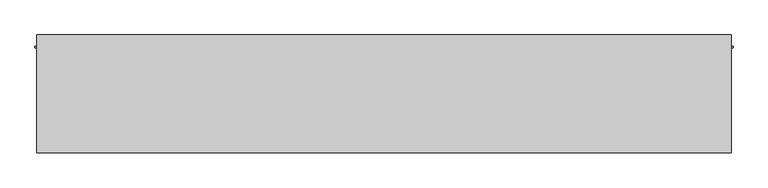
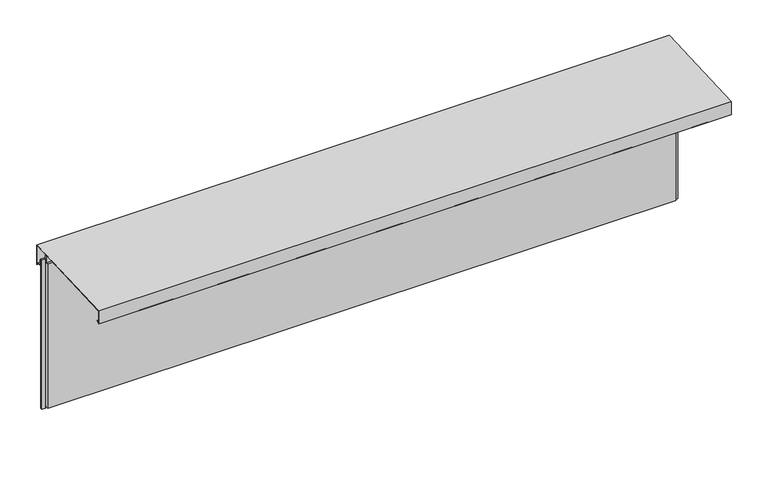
"""IFC4 building model written with IfcOpenShell, lengths in millimetres: plate geometry, Trimo_Qbiss Screen_Normal Panel-HORIZONTAL : HR - B."""

from ifc_helpers import new_model, si_unit, frame, origin, place, context, project, spatial, polyline, outline, extrude, source, transform, mapped, element, save


def plate_2f1254bd(model_context):
    return source(origin(), model_context, "Body", "SweptSolid", [
        extrude(outline(polyline([(101.0, 868.0), (77.0, 868.0), (77.0, 868.8), (101.8, 868.8), (101.8, 831.8), (125.3313708, 831.8), (133.2, 823.9313708), (133.2, 822.8), (125.0, 831.0), (101.0, 831.0), (101.0, 868.0)])), frame((-1781.25, 0.0, 0.0), z_axis=(1.0, 0.0, 0.0), x_axis=(0.0, 1.0, 0.0)), (0.0, 0.0, 1.0), 3562.5),
        extrude(outline(polyline([(134.2, 818.9715729), (134.2, 934.1569759), (-469.2, 905.4165497), (-469.2, 833.1070922), (-457.6367532, 844.670339), (-457.0710678, 844.1046536), (-470.0, 831.1757214), (-470.0, 906.1757214), (135.0, 935.0), (135.0, 817.040202), (123.020101, 829.020101), (123.5857864, 829.5857864), (134.2, 818.9715729)])), frame((-1781.25, 0.0, 0.0), z_axis=(1.0, 0.0, 0.0), x_axis=(0.0, 1.0, 0.0)), (0.0, 0.0, 1.0), 3562.5),
        extrude(outline(polyline([(-1771.75, 76.5978162), (-1771.75, 67.8978162), (-1790.75, 67.8978162), (-1790.75, 76.5978162), (-1771.75, 76.5978162)])), frame((0.0, 0.0, -1.0), z_axis=(0.0, 0.0, 1.0), x_axis=(1.0, 0.0, 0.0)), (0.0, 0.0, 1.0), 890.0),
        extrude(outline(polyline([(1771.75, 67.8978162), (1771.75, 76.5978162), (1790.75, 76.5978162), (1790.75, 67.8978162), (1771.75, 67.8978162)])), frame((0.0, 0.0, -1.0), z_axis=(0.0, 0.0, 1.0), x_axis=(1.0, 0.0, 0.0)), (0.0, 0.0, 1.0), 890.0),
        extrude(outline(polyline([(1768.75, 76.0), (1768.75, 71.0), (-1768.75, 71.0), (-1768.75, 76.0), (1768.75, 76.0)])), frame((0.0, 0.0, 868.0), z_axis=(0.0, 0.0, 1.0), x_axis=(1.0, 0.0, 0.0)), (0.0, 0.0, 1.0), 21.0),
        extrude(outline(polyline([(71.0, 867.0), (100.0, 867.0), (100.0, 0.0), (72.0, 0.0), (72.0, 15.5), (62.0, 15.5), (62.0, 7.0), (50.0, 7.0), (50.0, 867.0), (63.0, 867.0), (63.0, 904.5), (71.0, 904.5), (71.0, 867.0)])), frame((-1768.75, 0.0, 0.0), z_axis=(1.0, 0.0, 0.0), x_axis=(0.0, 1.0, 0.0)), (0.0, 0.0, 1.0), 3537.5),
    ])


if __name__ == "__main__":
    model = new_model("IFC4")
    model_context = context("Model", 3, world=origin())
    ifc_project = project(units=[si_unit("LENGTHUNIT", "METRE", prefix="MILLI")], contexts=[model_context])
    site = spatial("IfcSite", under=ifc_project)
    building = spatial("IfcBuilding", under=site)
    placement = place(None, origin())
    plate_shape = plate_2f1254bd(model_context)
    element("IfcPlate", 1, ObjectType="Trimo_Qbiss Screen_Normal Panel-HORIZONTAL : HR - B", at=placement, inside=building, context=model_context, shape_type="MappedRepresentation", body=[
        mapped(plate_shape, transform((0.0, 0.0, 0.0), x_axis=(1.0, 0.0, 0.0), y_axis=(0.0, 1.0, 0.0), z_axis=(0.0, 0.0, 1.0))),
    ])
    save(model, "model.ifc")
